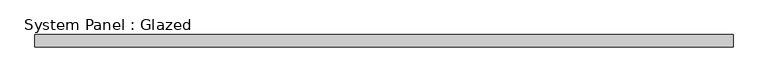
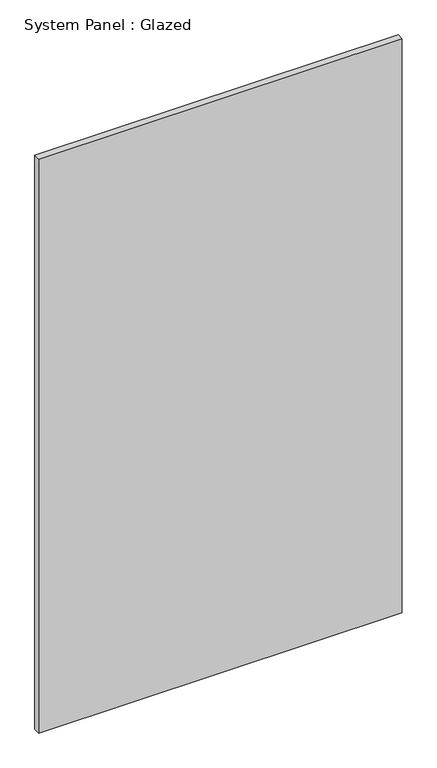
"""IFC4 building model written with IfcOpenShell, lengths in millimetres: plate geometry, System Panel : Glazed."""

from ifc_helpers import new_model, si_unit, origin, origin_with_axes, place, context, project, spatial, polyline, outline, extrude, source, transform, mapped, element, save


def system_panel_glazed_650e5b75(model_context):
    return source(origin(), model_context, "Body", "SweptSolid", [
        extrude(outline(polyline([(708.7366102, -49.5), (-708.7366102, -49.5), (-708.7366102, -24.5), (708.7366102, -24.5), (708.7366102, -49.5)])), origin_with_axes(), (0.0, 0.0, 1.0), 2365.0),
    ])


if __name__ == "__main__":
    model = new_model("IFC4")
    model_context = context("Model", 3, world=origin())
    ifc_project = project(units=[si_unit("LENGTHUNIT", "METRE", prefix="MILLI")], contexts=[model_context])
    site = spatial("IfcSite", under=ifc_project)
    building = spatial("IfcBuilding", under=site)
    placement = place(None, origin())
    system_panel_glazed_shape = system_panel_glazed_650e5b75(model_context)
    element("IfcPlate", 1, ObjectType="System Panel : Glazed", at=placement, inside=building, context=model_context, shape_type="MappedRepresentation", body=[
        mapped(system_panel_glazed_shape, transform((0.0, 0.0, 0.0), x_axis=(1.0, 0.0, 0.0), y_axis=(0.0, 1.0, 0.0), z_axis=(0.0, 0.0, 1.0))),
    ])
    save(model, "model.ifc")
